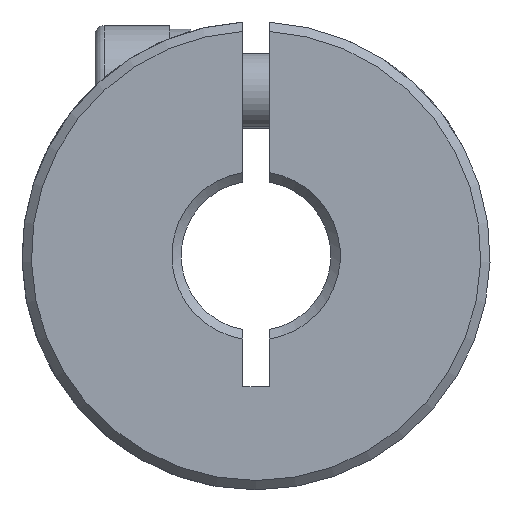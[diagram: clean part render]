
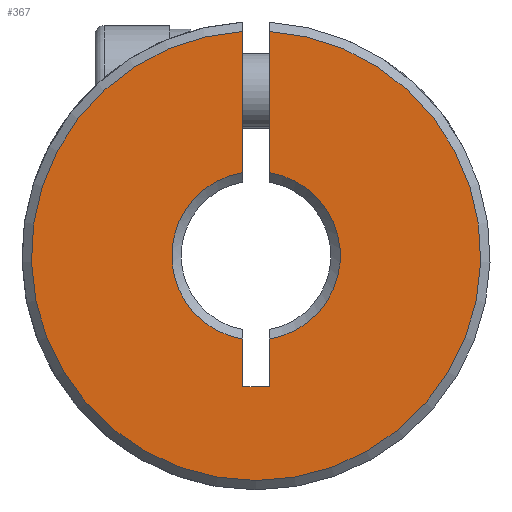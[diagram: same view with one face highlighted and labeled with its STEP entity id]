
A CAD part, front view. The second image highlights one B-rep face of the part: STEP entity #367.
In plain terms, the highlighted planar face has unit normal (0, -1, 0).
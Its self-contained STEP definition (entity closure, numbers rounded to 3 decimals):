
#50 = DIRECTION ( 'NONE',  ( 0., 0., 1. ) ) ;
#91 = CIRCLE ( 'NONE', #2341, 4.5 ) ;
#103 = CARTESIAN_POINT ( 'NONE',  ( 0.7, 0.25, 4.445 ) ) ;
#111 = DIRECTION ( 'NONE',  ( 1., 0., 0. ) ) ;
#314 = CARTESIAN_POINT ( 'NONE',  ( 0., 0.25, 0. ) ) ;
#331 = VERTEX_POINT ( 'NONE', #697 ) ;
#367 = ADVANCED_FACE ( 'NONE', ( #3212 ), #3014, .F. ) ;
#425 = EDGE_CURVE ( 'NONE', #921, #1194, #2018, .T. ) ;
#447 = VECTOR ( 'NONE', #111, 1000. ) ;
#589 = CARTESIAN_POINT ( 'NONE',  ( -0.7, 0.25, 4.445 ) ) ;
#599 = AXIS2_PLACEMENT_3D ( 'NONE', #977, #1484, #2800 ) ;
#606 = VERTEX_POINT ( 'NONE', #2782 ) ;
#625 = CARTESIAN_POINT ( 'NONE',  ( 0., 0.25, 0. ) ) ;
#637 = EDGE_CURVE ( 'NONE', #1943, #606, #1437, .T. ) ;
#643 = VECTOR ( 'NONE', #721, 1000. ) ;
#696 = ORIENTED_EDGE ( 'NONE', *, *, #1614, .F. ) ;
#697 = CARTESIAN_POINT ( 'NONE',  ( 0.7, 0.25, -4.445 ) ) ;
#721 = DIRECTION ( 'NONE',  ( 0., 0., -1. ) ) ;
#759 = CARTESIAN_POINT ( 'NONE',  ( -0.7, 0.25, 11.98 ) ) ;
#768 = LINE ( 'NONE', #2900, #775 ) ;
#775 = VECTOR ( 'NONE', #50, 1000. ) ;
#821 = EDGE_CURVE ( 'NONE', #1720, #2448, #768, .T. ) ;
#827 = DIRECTION ( 'NONE',  ( 0., 1., 0. ) ) ;
#921 = VERTEX_POINT ( 'NONE', #759 ) ;
#977 = CARTESIAN_POINT ( 'NONE',  ( 0., 0.25, 0. ) ) ;
#992 = EDGE_CURVE ( 'NONE', #1720, #331, #2597, .T. ) ;
#1047 = CIRCLE ( 'NONE', #2057, 12. ) ;
#1079 = DIRECTION ( 'NONE',  ( 0., 0., 1. ) ) ;
#1087 = ORIENTED_EDGE ( 'NONE', *, *, #992, .T. ) ;
#1156 = AXIS2_PLACEMENT_3D ( 'NONE', #1466, #1447, #1970 ) ;
#1194 = VERTEX_POINT ( 'NONE', #589 ) ;
#1248 = EDGE_CURVE ( 'NONE', #606, #1949, #2510, .T. ) ;
#1273 = EDGE_CURVE ( 'NONE', #921, #2448, #1047, .T. ) ;
#1289 = DIRECTION ( 'NONE',  ( 0., 0., -1. ) ) ;
#1339 = ORIENTED_EDGE ( 'NONE', *, *, #1679, .T. ) ;
#1369 = EDGE_LOOP ( 'NONE', ( #2182, #1087, #696, #2842, #2682, #1339, #3064, #2154 ) ) ;
#1376 = CARTESIAN_POINT ( 'NONE',  ( 0.7, 0.25, -7. ) ) ;
#1437 = LINE ( 'NONE', #2058, #2190 ) ;
#1447 = DIRECTION ( 'NONE',  ( 0., 1., 0. ) ) ;
#1466 = CARTESIAN_POINT ( 'NONE',  ( 12.5, 0.25, -50. ) ) ;
#1484 = DIRECTION ( 'NONE',  ( 0., 1., 0. ) ) ;
#1614 = EDGE_CURVE ( 'NONE', #1949, #331, #2784, .T. ) ;
#1679 = EDGE_CURVE ( 'NONE', #1943, #1194, #91, .T. ) ;
#1720 = VERTEX_POINT ( 'NONE', #103 ) ;
#1743 = CARTESIAN_POINT ( 'NONE',  ( -0.7, 0.25, -4.445 ) ) ;
#1929 = DIRECTION ( 'NONE',  ( 0., 0., 1. ) ) ;
#1943 = VERTEX_POINT ( 'NONE', #1743 ) ;
#1949 = VERTEX_POINT ( 'NONE', #2768 ) ;
#1970 = DIRECTION ( 'NONE',  ( 0., 0., 1. ) ) ;
#2018 = LINE ( 'NONE', #2279, #643 ) ;
#2057 = AXIS2_PLACEMENT_3D ( 'NONE', #625, #3193, #2949 ) ;
#2058 = CARTESIAN_POINT ( 'NONE',  ( -0.7, 0.25, -7. ) ) ;
#2149 = VECTOR ( 'NONE', #1929, 1000. ) ;
#2154 = ORIENTED_EDGE ( 'NONE', *, *, #1273, .T. ) ;
#2182 = ORIENTED_EDGE ( 'NONE', *, *, #821, .F. ) ;
#2190 = VECTOR ( 'NONE', #1289, 1000. ) ;
#2279 = CARTESIAN_POINT ( 'NONE',  ( -0.7, 0.25, -7. ) ) ;
#2341 = AXIS2_PLACEMENT_3D ( 'NONE', #314, #827, #1079 ) ;
#2448 = VERTEX_POINT ( 'NONE', #3331 ) ;
#2510 = LINE ( 'NONE', #1376, #447 ) ;
#2597 = CIRCLE ( 'NONE', #599, 4.5 ) ;
#2682 = ORIENTED_EDGE ( 'NONE', *, *, #637, .F. ) ;
#2768 = CARTESIAN_POINT ( 'NONE',  ( 0.7, 0.25, -7. ) ) ;
#2782 = CARTESIAN_POINT ( 'NONE',  ( -0.7, 0.25, -7. ) ) ;
#2784 = LINE ( 'NONE', #3238, #2149 ) ;
#2800 = DIRECTION ( 'NONE',  ( 0., 0., 1. ) ) ;
#2842 = ORIENTED_EDGE ( 'NONE', *, *, #1248, .F. ) ;
#2900 = CARTESIAN_POINT ( 'NONE',  ( 0.7, 0.25, -7. ) ) ;
#2949 = DIRECTION ( 'NONE',  ( 0., 0., 1. ) ) ;
#3014 = PLANE ( 'NONE',  #1156 ) ;
#3064 = ORIENTED_EDGE ( 'NONE', *, *, #425, .F. ) ;
#3193 = DIRECTION ( 'NONE',  ( 0., -1., 0. ) ) ;
#3212 = FACE_OUTER_BOUND ( 'NONE', #1369, .T. ) ;
#3238 = CARTESIAN_POINT ( 'NONE',  ( 0.7, 0.25, -7. ) ) ;
#3331 = CARTESIAN_POINT ( 'NONE',  ( 0.7, 0.25, 11.98 ) ) ;
